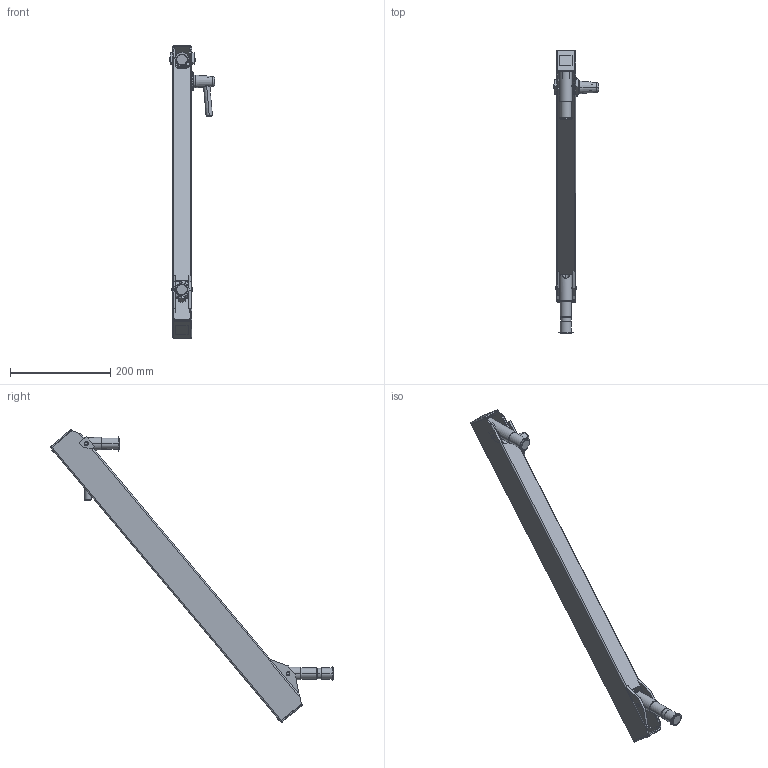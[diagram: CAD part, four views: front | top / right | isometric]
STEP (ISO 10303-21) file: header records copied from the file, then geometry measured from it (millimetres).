
FILE_DESCRIPTION (( 'STEP AP203' ), '1' );
FILE_NAME ('70-2424-00 REV AA, FLEX SECTION, 24in, 3-24 LB - UP.STEP', '2025-06-17T23:29:57', ( '' ), ( '' ), 'SwSTEP 2.0', 'SolidWorks 2025', '' );
FILE_SCHEMA (( 'CONFIG_CONTROL_DESIGN' ));
Length unit declared in the file: inch
Products named in the file (32): 71-3032-RX REV AA, SPRING ROD, 24in FLEX; 71-3033-99 REV AA, BOLT, ADJUSTING, 15.250; 11-0602-RX REV AA, HANDLE, BRAKE ASSEMBLY; 71-0039-RX REV AA, BRAKE BLOCK_MACHINE; 11-0650-00 REV AA, BRAKE HANDLE ASSEMBLY; 002-041-00_002-041-00; 11-0601-99 REV AA, CONICAL KNOB, BRAKE ASSEMBLY; 004-144-00; 11-0027-RX REV AA, PLASTIC DISC, BRAKE ASSEMBLY_MACHINE; 71-0037-RX REV AA, PIVOT, THREADED; 006-059-00; 71-1051-RX REV AA, SPRING BLOCK; 006-004-00_006-004-00; 71-2400-RX REV AA, HOUSING, 24in FLEX; 70-2424-00 REV AA,  FLEX SECTION, 24in, 3-24 LB - UP; 011-033-00; 010-012-00, RETAINING RING, EXTERNAL, .875in SHAFT; 005-084-00, BOLT, 1''4-20x2.75; 71-0071-RX REV AA, AXLE PIN, LONG; 011-020-00 REV AA, PIN, KNURLED, 1.0LG x .25OD; 71-0031-RX REV AA, KNUCKLE, MOUNT_MACHINE; 71-0038-RX REV AA, PIVOT, KNUCKLE, ELECTROLESS NICKEL; 71-0070-RX REV AA, AXLE PIN, SHORT; 71-0029-RX REV AA, TAB, LOAD; 013-037-00, SPRING, GREEN, 1x12; 010-011-00, RETAINING RING, EXT, .250 SHAFT_010-011-00; 016-070-00, BEARING, PLASTIC, .5ID x .625 OD x .75; 71-0972-99 REV AA, END CAP, FLEX; 71-2401-BLKX REV AA, FLEX HOUSING, 24in, BLACK; 71-0030-RX REV AA, KNUCKLE, LOAD_MACHINE; 71-0028-RX REV AA, TAB, MOUNT_MACHINE; 004-050-00, WASHER, FIBER, .032 THK, .265ID
Assembly tree (52 placements, depth 3):
  70-2424-00 REV AA,  FLEX SECTION, 24in, 3-24 LB - UP
    71-0031-RX REV AA, KNUCKLE, MOUNT_MACHINE
    71-1051-RX REV AA, SPRING BLOCK
    71-3032-RX REV AA, SPRING ROD, 24in FLEX
    71-0030-RX REV AA, KNUCKLE, LOAD_MACHINE
    71-0038-RX REV AA, PIVOT, KNUCKLE, ELECTROLESS NICKEL
    71-0037-RX REV AA, PIVOT, THREADED
    71-0039-RX REV AA, BRAKE BLOCK_MACHINE
    71-3033-99 REV AA, BOLT, ADJUSTING, 15.250
    71-2401-BLKX REV AA, FLEX HOUSING, 24in, BLACK
      71-2400-RX REV AA, HOUSING, 24in FLEX
      71-0029-RX REV AA, TAB, LOAD  x2
      71-0028-RX REV AA, TAB, MOUNT_MACHINE  x2
    71-0070-RX REV AA, AXLE PIN, SHORT
    71-0071-RX REV AA, AXLE PIN, LONG
    010-012-00, RETAINING RING, EXTERNAL, .875in SHAFT  x2
    71-0972-99 REV AA, END CAP, FLEX  x2
    11-0027-RX REV AA, PLASTIC DISC, BRAKE ASSEMBLY_MACHINE
    11-0650-00 REV AA, BRAKE HANDLE ASSEMBLY
      11-0601-99 REV AA, CONICAL KNOB, BRAKE ASSEMBLY
      11-0602-RX REV AA, HANDLE, BRAKE ASSEMBLY
      11-0027-RX REV AA, PLASTIC DISC, BRAKE ASSEMBLY_MACHINE
      005-084-00, BOLT, 1''4-20x2.75
    010-011-00, RETAINING RING, EXT, .250 SHAFT_010-011-00  x4
    016-070-00, BEARING, PLASTIC, .5ID x .625 OD x .75  x2
    004-050-00, WASHER, FIBER, .032 THK, .265ID  x8
    011-033-00
    011-020-00 REV AA, PIN, KNURLED, 1.0LG x .25OD  x2
    004-144-00  x3
    006-059-00
    013-037-00, SPRING, GREEN, 1x12
    006-004-00_006-004-00  x2
    002-041-00_002-041-00  x2
Bounding box: 91.63 x 563.99 x 583.12 mm (x, y, z)
Volume: 670405.5 mm3; surface area: 454405.1 mm2
Topology: 52 solids, 52 shells, 1063 faces, 2589 edges, 1630 vertices
Faces by surface type: cylinder 446, plane 365, cone 181, torus 45, bspline 20, sphere 6
Entity records: 53279 total; most frequent: CARTESIAN_POINT 32224, DIRECTION 3568, ORIENTED_EDGE 3566, EDGE_CURVE 1783, AXIS2_PLACEMENT_3D 1368, VERTEX_POINT 1122, VECTOR 832, LINE 832
